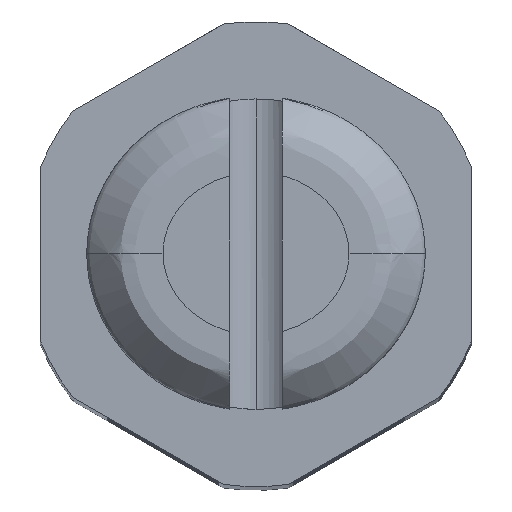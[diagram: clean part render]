
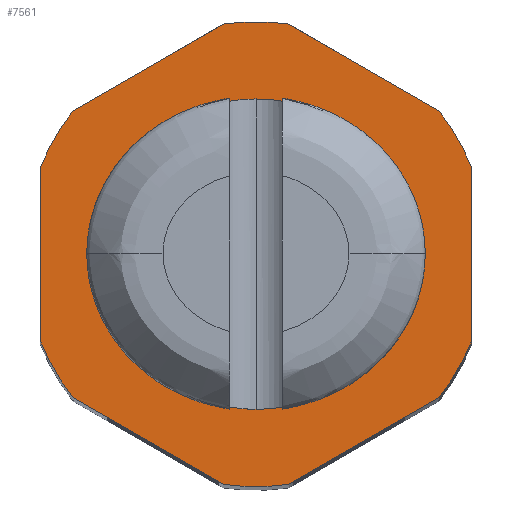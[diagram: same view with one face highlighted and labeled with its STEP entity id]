
A CAD part, top view. The second image highlights one B-rep face of the part: STEP entity #7561.
In plain terms, the highlighted planar face has unit normal (0, 0, 1).
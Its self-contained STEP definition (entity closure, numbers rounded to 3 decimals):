
#86 = ORIENTED_EDGE ( 'NONE', *, *, #14517, .F. ) ;
#205 = CARTESIAN_POINT ( 'NONE',  ( 0., 0., 0.889 ) ) ;
#271 = DIRECTION ( 'NONE',  ( -0.866, 0.5, 0. ) ) ;
#452 = CARTESIAN_POINT ( 'NONE',  ( 2.065, -0.288, 0.889 ) ) ;
#603 = DIRECTION ( 'NONE',  ( 0., 0., -1. ) ) ;
#668 = DIRECTION ( 'NONE',  ( 0., 1., 0. ) ) ;
#971 = CIRCLE ( 'NONE', #2182, 2.085 ) ;
#1071 = DIRECTION ( 'NONE',  ( 0., -1., 0. ) ) ;
#1150 = DIRECTION ( 'NONE',  ( 0., 0., -1. ) ) ;
#1153 = AXIS2_PLACEMENT_3D ( 'NONE', #1744, #1588, #8470 ) ;
#1448 = AXIS2_PLACEMENT_3D ( 'NONE', #6296, #7650, #14525 ) ;
#1483 = ORIENTED_EDGE ( 'NONE', *, *, #5987, .F. ) ;
#1543 = DIRECTION ( 'NONE',  ( 1., 0., 0. ) ) ;
#1588 = DIRECTION ( 'NONE',  ( 0., 0., -1. ) ) ;
#1719 = VERTEX_POINT ( 'NONE', #4947 ) ;
#1738 = DIRECTION ( 'NONE',  ( -1., 0., 0. ) ) ;
#1744 = CARTESIAN_POINT ( 'NONE',  ( 0., 0., 0.889 ) ) ;
#1807 = DIRECTION ( 'NONE',  ( -1., 0., 0. ) ) ;
#1919 = CIRCLE ( 'NONE', #1448, 3.125 ) ;
#2061 = AXIS2_PLACEMENT_3D ( 'NONE', #5613, #1150, #9235 ) ;
#2182 = AXIS2_PLACEMENT_3D ( 'NONE', #8274, #5863, #1543 ) ;
#2302 = CIRCLE ( 'NONE', #3495, 2.085 ) ;
#2415 = EDGE_CURVE ( 'NONE', #8747, #10025, #2302, .T. ) ;
#2461 = EDGE_LOOP ( 'NONE', ( #11583, #86, #12659, #4052 ) ) ;
#2529 = CARTESIAN_POINT ( 'NONE',  ( -2.458, -1.929, 0.889 ) ) ;
#2541 = DIRECTION ( 'NONE',  ( -1., 0., 0. ) ) ;
#2647 = LINE ( 'NONE', #13906, #14196 ) ;
#2833 = VECTOR ( 'NONE', #13650, 1000. ) ;
#2871 = AXIS2_PLACEMENT_3D ( 'NONE', #13369, #603, #1738 ) ;
#2988 = CARTESIAN_POINT ( 'NONE',  ( -2.065, -0.288, 0.889 ) ) ;
#3001 = ORIENTED_EDGE ( 'NONE', *, *, #4265, .F. ) ;
#3103 = CIRCLE ( 'NONE', #2871, 3.125 ) ;
#3152 = LINE ( 'NONE', #9885, #3556 ) ;
#3179 = ORIENTED_EDGE ( 'NONE', *, *, #14482, .F. ) ;
#3275 = ORIENTED_EDGE ( 'NONE', *, *, #9468, .F. ) ;
#3495 = AXIS2_PLACEMENT_3D ( 'NONE', #12188, #5474, #12114 ) ;
#3526 = CARTESIAN_POINT ( 'NONE',  ( -2.458, -1.929, 0.889 ) ) ;
#3556 = VECTOR ( 'NONE', #668, 1000. ) ;
#3829 = VERTEX_POINT ( 'NONE', #14464 ) ;
#3938 = FACE_OUTER_BOUND ( 'NONE', #13181, .T. ) ;
#4052 = ORIENTED_EDGE ( 'NONE', *, *, #2415, .F. ) ;
#4265 = EDGE_CURVE ( 'NONE', #8197, #1719, #8580, .T. ) ;
#4368 = VERTEX_POINT ( 'NONE', #11799 ) ;
#4831 = EDGE_CURVE ( 'NONE', #5035, #8197, #5787, .T. ) ;
#4947 = CARTESIAN_POINT ( 'NONE',  ( -0.442, -3.094, 0.889 ) ) ;
#5035 = VERTEX_POINT ( 'NONE', #11369 ) ;
#5474 = DIRECTION ( 'NONE',  ( 0., 0., 1. ) ) ;
#5528 = CARTESIAN_POINT ( 'NONE',  ( -0.442, 3.094, 0.889 ) ) ;
#5575 = CARTESIAN_POINT ( 'NONE',  ( -2.9, 1.164, 0.889 ) ) ;
#5613 = CARTESIAN_POINT ( 'NONE',  ( 0., 0., 0.889 ) ) ;
#5787 = LINE ( 'NONE', #9029, #12234 ) ;
#5802 = DIRECTION ( 'NONE',  ( 0., 0., -1. ) ) ;
#5837 = CARTESIAN_POINT ( 'NONE',  ( 0.442, 3.094, 0.889 ) ) ;
#5860 = DIRECTION ( 'NONE',  ( -0.866, -0.5, 0. ) ) ;
#5863 = DIRECTION ( 'NONE',  ( 0., 0., 1. ) ) ;
#5987 = EDGE_CURVE ( 'NONE', #7764, #12139, #3152, .T. ) ;
#6239 = EDGE_CURVE ( 'NONE', #7226, #8061, #12733, .T. ) ;
#6296 = CARTESIAN_POINT ( 'NONE',  ( 0., 0., 0.889 ) ) ;
#6343 = ORIENTED_EDGE ( 'NONE', *, *, #7455, .F. ) ;
#6379 = CARTESIAN_POINT ( 'NONE',  ( 2.9, -1.164, 0.889 ) ) ;
#6504 = VECTOR ( 'NONE', #14603, 1000. ) ;
#6778 = VERTEX_POINT ( 'NONE', #6379 ) ;
#6981 = CIRCLE ( 'NONE', #10838, 3.125 ) ;
#7194 = FACE_BOUND ( 'NONE', #2461, .T. ) ;
#7226 = VERTEX_POINT ( 'NONE', #5837 ) ;
#7243 = AXIS2_PLACEMENT_3D ( 'NONE', #12151, #13214, #1807 ) ;
#7455 = EDGE_CURVE ( 'NONE', #11814, #6778, #11417, .T. ) ;
#7561 = ADVANCED_FACE ( 'NONE', ( #3938, #7194 ), #14213, .F. ) ;
#7650 = DIRECTION ( 'NONE',  ( 0., 0., -1. ) ) ;
#7764 = VERTEX_POINT ( 'NONE', #8665 ) ;
#8061 = VERTEX_POINT ( 'NONE', #11671 ) ;
#8108 = ORIENTED_EDGE ( 'NONE', *, *, #14073, .F. ) ;
#8184 = CIRCLE ( 'NONE', #8906, 3.125 ) ;
#8197 = VERTEX_POINT ( 'NONE', #14859 ) ;
#8274 = CARTESIAN_POINT ( 'NONE',  ( 0., 0., 0.889 ) ) ;
#8470 = DIRECTION ( 'NONE',  ( -1., 0., 0. ) ) ;
#8580 = CIRCLE ( 'NONE', #2061, 3.125 ) ;
#8665 = CARTESIAN_POINT ( 'NONE',  ( -2.9, -1.164, 0.889 ) ) ;
#8747 = VERTEX_POINT ( 'NONE', #2988 ) ;
#8906 = AXIS2_PLACEMENT_3D ( 'NONE', #13508, #5802, #13808 ) ;
#8969 = CARTESIAN_POINT ( 'NONE',  ( 2.065, 0.288, 0.889 ) ) ;
#9029 = CARTESIAN_POINT ( 'NONE',  ( 0.442, -3.094, 0.889 ) ) ;
#9159 = CARTESIAN_POINT ( 'NONE',  ( 2.9, -1.164, 0.889 ) ) ;
#9235 = DIRECTION ( 'NONE',  ( -1., 0., 0. ) ) ;
#9264 = VERTEX_POINT ( 'NONE', #5528 ) ;
#9413 = LINE ( 'NONE', #10763, #11823 ) ;
#9468 = EDGE_CURVE ( 'NONE', #4368, #9264, #2647, .T. ) ;
#9600 = VECTOR ( 'NONE', #1071, 1000. ) ;
#9885 = CARTESIAN_POINT ( 'NONE',  ( -2.9, 1.164, 0.889 ) ) ;
#9971 = EDGE_CURVE ( 'NONE', #12561, #7764, #3103, .T. ) ;
#10025 = VERTEX_POINT ( 'NONE', #452 ) ;
#10686 = ORIENTED_EDGE ( 'NONE', *, *, #4831, .F. ) ;
#10690 = LINE ( 'NONE', #2529, #14494 ) ;
#10763 = CARTESIAN_POINT ( 'NONE',  ( 2.065, 2.086, 0.889 ) ) ;
#10838 = AXIS2_PLACEMENT_3D ( 'NONE', #205, #13878, #2541 ) ;
#11050 = CARTESIAN_POINT ( 'NONE',  ( -2.065, 2.086, 0.889 ) ) ;
#11102 = EDGE_CURVE ( 'NONE', #8747, #3829, #11124, .T. ) ;
#11120 = ORIENTED_EDGE ( 'NONE', *, *, #6239, .F. ) ;
#11124 = LINE ( 'NONE', #11050, #6504 ) ;
#11369 = CARTESIAN_POINT ( 'NONE',  ( 2.458, -1.929, 0.889 ) ) ;
#11417 = LINE ( 'NONE', #9159, #9600 ) ;
#11583 = ORIENTED_EDGE ( 'NONE', *, *, #11102, .T. ) ;
#11600 = DIRECTION ( 'NONE',  ( 0., 1., 0. ) ) ;
#11671 = CARTESIAN_POINT ( 'NONE',  ( 2.458, 1.929, 0.889 ) ) ;
#11799 = CARTESIAN_POINT ( 'NONE',  ( -2.458, 1.929, 0.889 ) ) ;
#11814 = VERTEX_POINT ( 'NONE', #13434 ) ;
#11823 = VECTOR ( 'NONE', #11600, 1000. ) ;
#11988 = ORIENTED_EDGE ( 'NONE', *, *, #13300, .F. ) ;
#12114 = DIRECTION ( 'NONE',  ( 1., 0., 0. ) ) ;
#12139 = VERTEX_POINT ( 'NONE', #5575 ) ;
#12151 = CARTESIAN_POINT ( 'NONE',  ( 0., 0., 0.889 ) ) ;
#12162 = EDGE_CURVE ( 'NONE', #8061, #11814, #8184, .T. ) ;
#12188 = CARTESIAN_POINT ( 'NONE',  ( 0., 0., 0.889 ) ) ;
#12234 = VECTOR ( 'NONE', #5860, 1000. ) ;
#12359 = VERTEX_POINT ( 'NONE', #8969 ) ;
#12506 = EDGE_CURVE ( 'NONE', #12139, #4368, #6981, .T. ) ;
#12561 = VERTEX_POINT ( 'NONE', #3526 ) ;
#12659 = ORIENTED_EDGE ( 'NONE', *, *, #14649, .F. ) ;
#12733 = LINE ( 'NONE', #13876, #2833 ) ;
#12912 = DIRECTION ( 'NONE',  ( 0.866, 0.5, 0. ) ) ;
#13181 = EDGE_LOOP ( 'NONE', ( #6343, #13353, #11120, #11988, #3275, #14717, #1483, #14887, #3179, #3001, #10686, #8108 ) ) ;
#13214 = DIRECTION ( 'NONE',  ( 0., 0., -1. ) ) ;
#13300 = EDGE_CURVE ( 'NONE', #9264, #7226, #1919, .T. ) ;
#13353 = ORIENTED_EDGE ( 'NONE', *, *, #12162, .F. ) ;
#13369 = CARTESIAN_POINT ( 'NONE',  ( 0., 0., 0.889 ) ) ;
#13434 = CARTESIAN_POINT ( 'NONE',  ( 2.9, 1.164, 0.889 ) ) ;
#13508 = CARTESIAN_POINT ( 'NONE',  ( 0., 0., 0.889 ) ) ;
#13650 = DIRECTION ( 'NONE',  ( 0.866, -0.5, 0. ) ) ;
#13753 = CIRCLE ( 'NONE', #7243, 3.125 ) ;
#13808 = DIRECTION ( 'NONE',  ( -1., 0., 0. ) ) ;
#13876 = CARTESIAN_POINT ( 'NONE',  ( 2.458, 1.929, 0.889 ) ) ;
#13878 = DIRECTION ( 'NONE',  ( 0., 0., -1. ) ) ;
#13906 = CARTESIAN_POINT ( 'NONE',  ( -0.442, 3.094, 0.889 ) ) ;
#14073 = EDGE_CURVE ( 'NONE', #6778, #5035, #13753, .T. ) ;
#14196 = VECTOR ( 'NONE', #12912, 1000. ) ;
#14213 = PLANE ( 'NONE',  #1153 ) ;
#14464 = CARTESIAN_POINT ( 'NONE',  ( -2.065, 0.288, 0.889 ) ) ;
#14482 = EDGE_CURVE ( 'NONE', #1719, #12561, #10690, .T. ) ;
#14494 = VECTOR ( 'NONE', #271, 1000. ) ;
#14517 = EDGE_CURVE ( 'NONE', #12359, #3829, #971, .T. ) ;
#14525 = DIRECTION ( 'NONE',  ( -1., 0., 0. ) ) ;
#14603 = DIRECTION ( 'NONE',  ( 0., 1., 0. ) ) ;
#14649 = EDGE_CURVE ( 'NONE', #10025, #12359, #9413, .T. ) ;
#14717 = ORIENTED_EDGE ( 'NONE', *, *, #12506, .F. ) ;
#14859 = CARTESIAN_POINT ( 'NONE',  ( 0.442, -3.094, 0.889 ) ) ;
#14887 = ORIENTED_EDGE ( 'NONE', *, *, #9971, .F. ) ;
